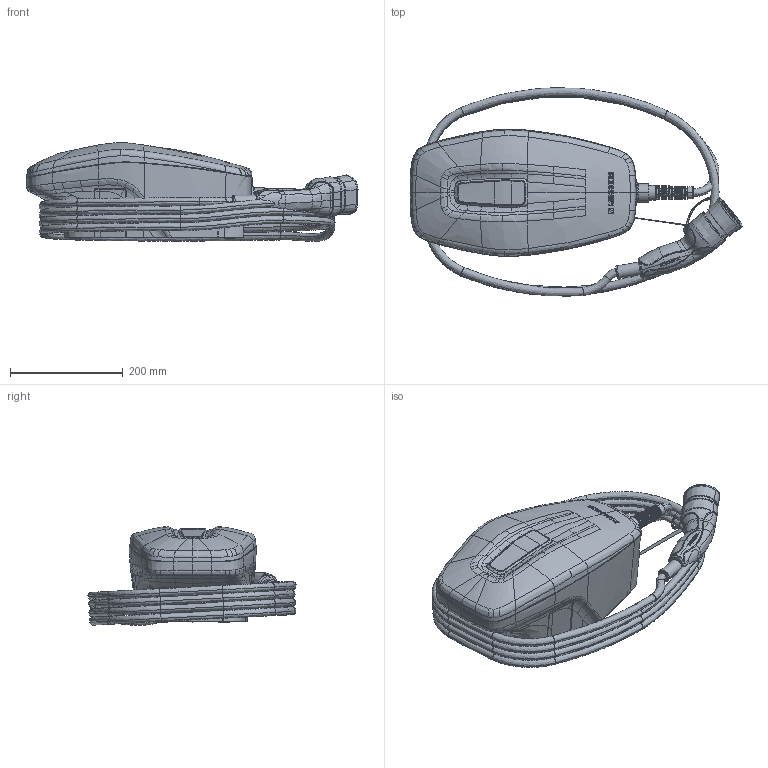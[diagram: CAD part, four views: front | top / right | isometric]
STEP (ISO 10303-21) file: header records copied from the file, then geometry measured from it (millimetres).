
FILE_DESCRIPTION((''),'2;1');
FILE_NAME('4YOU_100_SW0003','2024-04-12T06:20:51',('hoffmannf'),('MENNEKES'),'CREO PARAMETRIC BY PTC INC, 2023134','CREO PARAMETRIC BY PTC INC, 2023134','');
FILE_SCHEMA(('AUTOMOTIVE_DESIGN { 1 0 10303 214 1 1 1 1 }'));
Products named in the file (1): 4YOU_100_SW0003
Bounding box: 589.35 x 369.68 x 175.39 mm (x, y, z)
Volume: 11284546.5 mm3; surface area: 575886.9 mm2
Topology: 1 solids, 1 shells, 3901 faces, 10269 edges, 6516 vertices
Faces by surface type: bspline 1189, plane 1077, extrusion 1054, cylinder 212, cone 208, torus 141, sphere 20
Entity records: 268604 total; most frequent: CARTESIAN_POINT 124941, ORIENTED_EDGE 20514, PRESENTATION_STYLE_ASSIGNMENT 15213, STYLED_ITEM 11312, CURVE_STYLE 11311, EDGE_CURVE 10257, DIRECTION 10185, B_SPLINE_CURVE_WITH_KNOTS 6668
